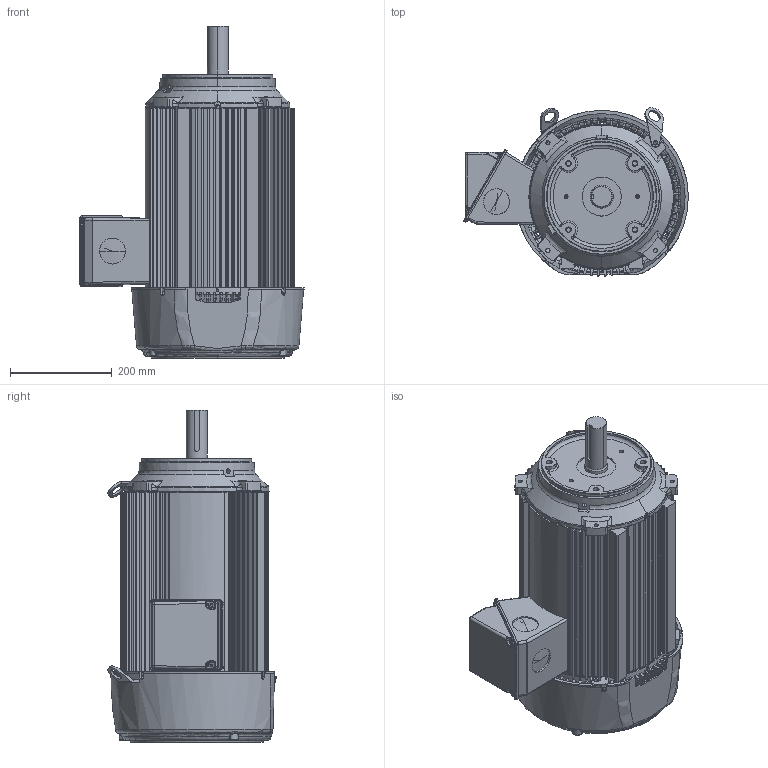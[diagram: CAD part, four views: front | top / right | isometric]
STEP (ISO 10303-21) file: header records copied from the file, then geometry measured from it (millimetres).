
FILE_DESCRIPTION((''),'2;1');
FILE_NAME('STD_CFACE_ASM','2014-07-02T',('emd2341'),('Nidec Motor Corporation'),'PRO/ENGINEER BY PARAMETRIC TECHNOLOGY CORPORATION, 2013150','PRO/ENGINEER BY PARAMETRIC TECHNOLOGY CORPORATION, 2013150','');
FILE_SCHEMA(('CONFIG_CONTROL_DESIGN'));
Length unit declared in the file: inch
Products named in the file (15): 0375096_AF0; 0375099-BKT_AF0; 0360239_AF0; 0375600_ASM; 0364285; 0370425-BKT_AF0; 0362224_AF0; 0370426_ASM; 0172877; 0417045; 0369683; 0364282-OBB; 0364292; 0369733; STD_CFACE_ASM
Assembly tree (15 placements, depth 3):
  STD_CFACE_ASM
    0375096_AF0
    0375600_ASM
      0375099-BKT_AF0
      0360239_AF0
    0364285
    0370426_ASM
      0370425-BKT_AF0
      0362224_AF0
    0172877
    0417045
    0369683
    0364282-OBB
    0364292
    0369733  x2
Bounding box: 440.71 x 329.69 x 651.05 mm (x, y, z)
Volume: 7171560.2 mm3; surface area: 2408269.8 mm2
Topology: 15 solids, 15 shells, 4745 faces, 12090 edges, 7350 vertices
Faces by surface type: bspline 1749, plane 1166, cylinder 859, cone 480, torus 382, sphere 89, extrusion 20
Entity records: 212754 total; most frequent: CARTESIAN_POINT 111559, ORIENTED_EDGE 24074, DIRECTION 16733, EDGE_CURVE 12037, VERTEX_POINT 7326, AXIS2_PLACEMENT_3D 6498, EDGE_LOOP 4915, B_SPLINE_CURVE_WITH_KNOTS 4836
